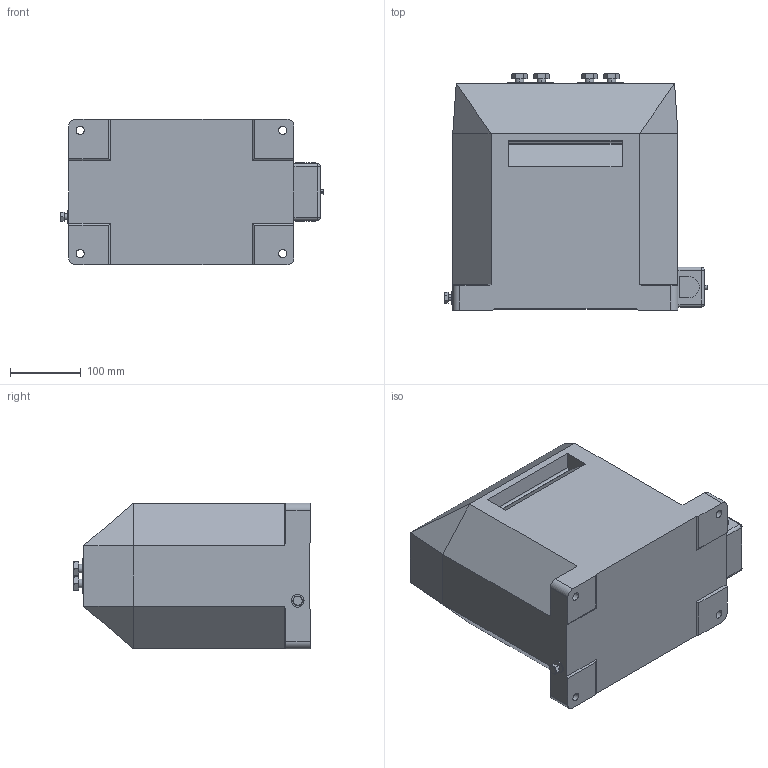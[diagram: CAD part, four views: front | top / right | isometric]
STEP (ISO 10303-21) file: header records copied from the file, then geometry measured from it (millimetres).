
FILE_DESCRIPTION (( 'STEP AP214' ), '1' );
FILE_NAME ('24305-021_AM-40a_750-1250A.STEP', '2025-10-03T14:06:23', ( '' ), ( '' ), 'SwSTEP 2.0', 'SolidWorks 2020', '' );
FILE_SCHEMA (( 'AUTOMOTIVE_DESIGN' ));
Length unit declared in the file: millimetre
Products named in the file (1): 24305-021_AM-40a_750-1250A
Bounding box: 372 x 334.5 x 206 mm (x, y, z)
Volume: 17807576.5 mm3; surface area: 453686 mm2
Topology: 1 solids, 1 shells, 292 faces, 763 edges, 482 vertices
Faces by surface type: plane 162, cylinder 100, cone 14, sphere 8, torus 4, bspline 4
Entity records: 10773 total; most frequent: CARTESIAN_POINT 2322, ORIENTED_EDGE 1510, DIRECTION 1453, EDGE_CURVE 755, AXIS2_PLACEMENT_3D 486, VERTEX_POINT 482, VECTOR 481, LINE 481
